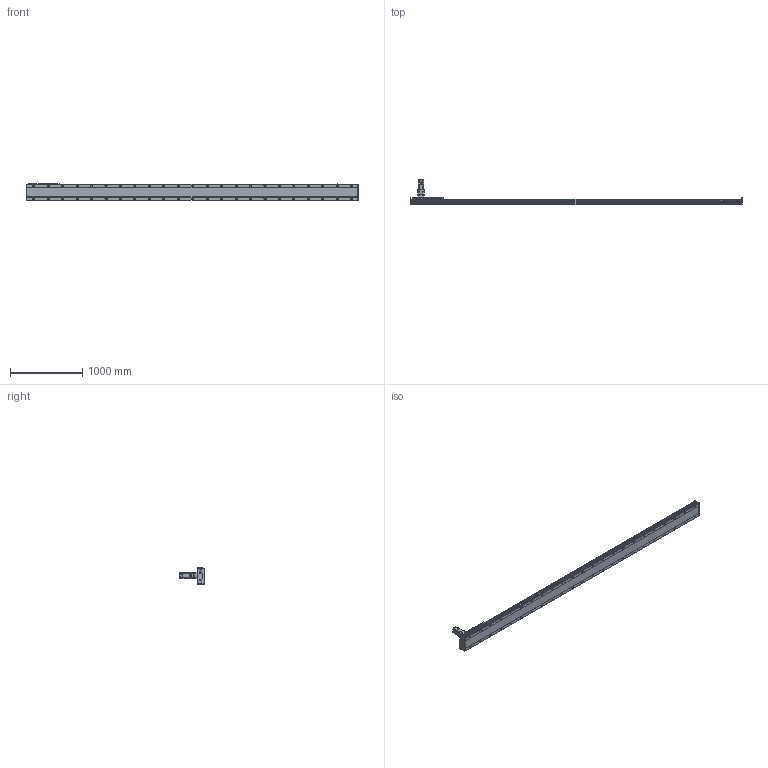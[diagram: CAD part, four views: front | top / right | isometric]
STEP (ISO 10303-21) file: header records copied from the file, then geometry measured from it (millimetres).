
FILE_DESCRIPTION(/* description */ ('STEP AP214'),/* implementation_level */ '2;1');
FILE_NAME(/* name */ 'SHS22A-L13-S4100-BC-T75-C1-N(0)',/* time_stamp */ '2022-06-15T02:28:37+02:00',/* author */ ('License CC BY-ND 4.0'),/* organization */ ('CADENAS'),/* preprocessor_version */ 'ST-DEVELOPER v18.102',/* originating_system */ 'PARTsolutions',/* authorisation */ ' ');
FILE_SCHEMA (('AUTOMOTIVE_DESIGN {1 0 10303 214 3 1 1}'));
Length unit declared in the file: millimetre
Products named in the file (7): SHS22A-L13-S4100-BC-T75-C1-N(0); PSC140-sensor; SHS22A-S4100_body2; T75-p1; SHS22A-S4100_body3; SHS22A-S4100_slider; SHS22A-L13-S4100-BC-T75-C1(0)_body
Assembly tree (13 placements, depth 2):
  SHS22A-L13-S4100-BC-T75-C1-N(0)
    PSC140-sensor  x3
    SHS22A-S4100_body2  x6
    T75-p1
    SHS22A-S4100_body3
    SHS22A-S4100_slider
    SHS22A-L13-S4100-BC-T75-C1(0)_body
Bounding box: 4594 x 350.8 x 238.4 mm (x, y, z)
Volume: 48999261.9 mm3; surface area: 5000700.1 mm2
Topology: 13 solids, 13 shells, 1977 faces, 5059 edges, 3310 vertices
Faces by surface type: plane 1372, cylinder 485, cone 111, torus 9
Full cylindrical faces by diameter (mm): 2.8 x3, 4.2 x2, 4.6 x3, 4.917 x4, 5 x4, 5.6 x24, 6 x31, 6.6 x24, 6.647 x8, 6.8 x9, 7.75 x6, 8 x3, 8.376 x46, 8.5 x46, 10 x4, 11 x4, 12 x24, 14 x46, 22 x1, 24.1 x1, 28 x1, 28.2 x1, 28.8 x1, 48.542 x1, 68 x1, 70 x1, 78 x1, 80 x2
Entity records: 33778 total; most frequent: CARTESIAN_POINT 6131, DIRECTION 5729, ORIENTED_EDGE 5088, EDGE_CURVE 2544, AXIS2_PLACEMENT_3D 2070, VERTEX_POINT 1854, FACE_BOUND 1838, EDGE_LOOP 1837
